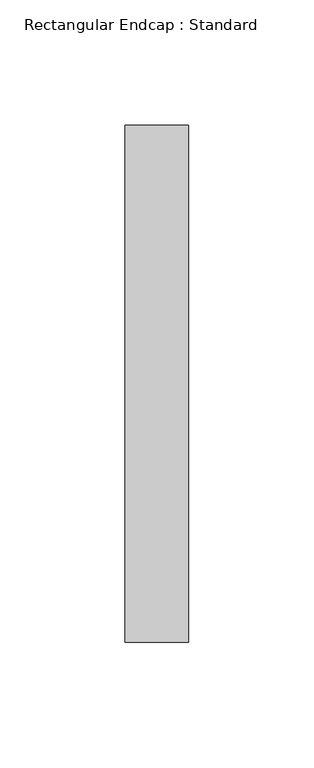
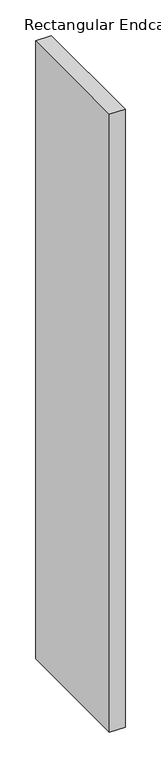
"""IFC4 building model written with IfcOpenShell, lengths in millimetres: duct fitting geometry, Rectangular Endcap : Standard."""

from ifc_helpers import new_model, si_unit, frame, origin, place, context, project, spatial, polyline, outline, extrude, source, transform, mapped, element, save


def rectangular_endcap_standard_db7dad01(model_context):
    return source(origin(), model_context, "Body", "SweptSolid", [
        extrude(outline(polyline([(0.0, -103.1875), (0.0, 103.1875), (25.4, 103.1875), (25.4, -103.1875), (0.0, -103.1875)])), frame((0.0, 0.0, -527.84375), z_axis=(0.0, 0.0, 1.0), x_axis=(1.0, 0.0, 0.0)), (0.0, 0.0, 1.0), 1055.6875),
    ])


if __name__ == "__main__":
    model = new_model("IFC4")
    model_context = context("Model", 3, world=origin())
    ifc_project = project(units=[si_unit("LENGTHUNIT", "METRE", prefix="MILLI")], contexts=[model_context])
    site = spatial("IfcSite", under=ifc_project)
    building = spatial("IfcBuilding", under=site)
    placement = place(None, origin())
    rectangular_endcap_standard_shape = rectangular_endcap_standard_db7dad01(model_context)
    element("IfcDuctFitting", 1, ObjectType="Rectangular Endcap : Standard", at=placement, inside=building, context=model_context, shape_type="MappedRepresentation", body=[
        mapped(rectangular_endcap_standard_shape, transform((0.0, 0.0, 0.0), x_axis=(1.0, 0.0, 0.0), y_axis=(0.0, 1.0, 0.0), z_axis=(0.0, 0.0, 1.0))),
    ])
    save(model, "model.ifc")
